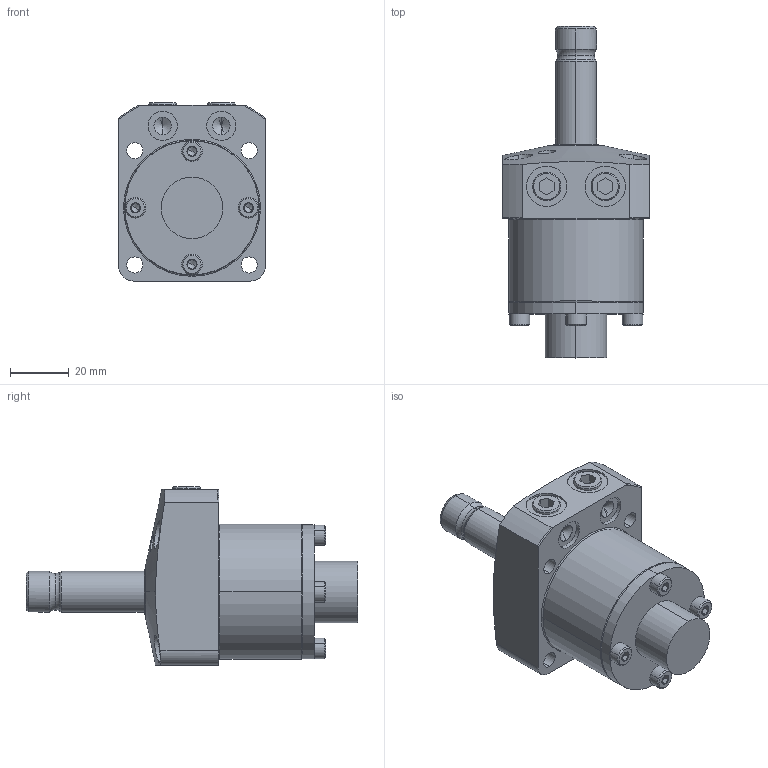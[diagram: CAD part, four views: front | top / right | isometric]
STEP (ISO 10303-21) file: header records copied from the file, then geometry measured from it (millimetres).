
FILE_DESCRIPTION (( 'STEP AP203' ), '1' );
FILE_NAME ('WHA0320-2GL-F.step', '2010-04-14T09:41:31', ( ' ' ), ( ' ' ), 'SwSTEP 2.0', 'SolidWorks 2009', '' );
FILE_SCHEMA (( 'CONFIG_CONTROL_DESIGN' ));
Length unit declared in the file: millimetre
Products named in the file (6): WHA0320_楓羔絻3WH100003-00; WHA0320-2GL-F; WHA0320_槭暌溒3WH100000-00; 6妏寠晅无倌_M4_10; WHA0320-F丒郫霓; R1／8ﾌﾟﾗｸﾞ
Assembly tree (9 placements, depth 2):
  WHA0320-2GL-F
    6妏寠晅无倌_M4_10  x4
    WHA0320-F丒郫霓
    R1／8ﾌﾟﾗｸﾞ  x2
    WHA0320_槭暌溒3WH100000-00
    WHA0320_楓羔絻3WH100003-00
Bounding box: 50 x 113.3 x 60.8 mm (x, y, z)
Volume: 129313.1 mm3; surface area: 28352.7 mm2
Topology: 9 solids, 9 shells, 302 faces, 622 edges, 354 vertices
Faces by surface type: plane 113, cylinder 97, cone 82, torus 10
Entity records: 6743 total; most frequent: CARTESIAN_POINT 1613, DIRECTION 991, ORIENTED_EDGE 848, EDGE_CURVE 424, AXIS2_PLACEMENT_3D 409, VERTEX_POINT 261, EDGE_LOOP 239, CIRCLE 201
